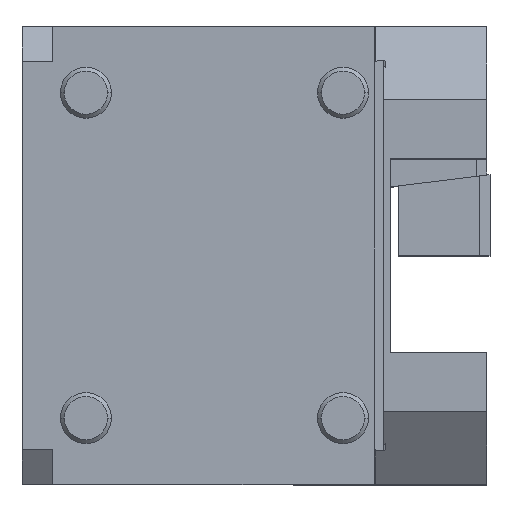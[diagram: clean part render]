
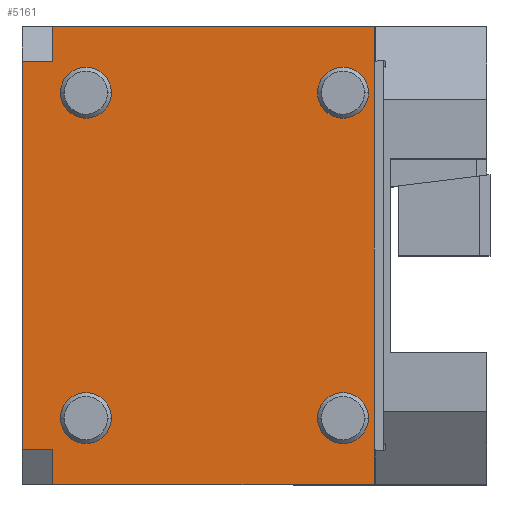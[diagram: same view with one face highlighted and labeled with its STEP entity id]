
A CAD part, top view. The second image highlights one B-rep face of the part: STEP entity #5161.
In plain terms, the highlighted planar face has unit normal (0, 0, 1).
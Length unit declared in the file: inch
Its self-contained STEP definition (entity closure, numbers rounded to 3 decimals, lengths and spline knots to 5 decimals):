
#106 = DIRECTION ( 'NONE',  ( 0., 1., 0. ) ) ;
#127 = VECTOR ( 'NONE', #919, 39.37008 ) ;
#233 = CARTESIAN_POINT ( 'NONE',  ( -0.51181, -1.25984, 0. ) ) ;
#304 = ORIENTED_EDGE ( 'NONE', *, *, #2963, .T. ) ;
#384 = EDGE_CURVE ( 'NONE', #2802, #5723, #5767, .T. ) ;
#440 = EDGE_CURVE ( 'NONE', #1032, #5996, #2401, .T. ) ;
#495 = EDGE_CURVE ( 'NONE', #2187, #2475, #2199, .T. ) ;
#500 = CARTESIAN_POINT ( 'NONE',  ( -2.30512, 1.25984, 0. ) ) ;
#541 = ORIENTED_EDGE ( 'NONE', *, *, #4062, .F. ) ;
#559 = AXIS2_PLACEMENT_3D ( 'NONE', #4185, #1819, #1801 ) ;
#723 = CARTESIAN_POINT ( 'NONE',  ( -2.56378, 1.77165, 0. ) ) ;
#740 = ORIENTED_EDGE ( 'NONE', *, *, #4851, .T. ) ;
#912 = DIRECTION ( 'NONE',  ( 0., 0., -1. ) ) ;
#919 = DIRECTION ( 'NONE',  ( 0., 1., 0. ) ) ;
#1011 = AXIS2_PLACEMENT_3D ( 'NONE', #1719, #2225, #3151 ) ;
#1032 = VERTEX_POINT ( 'NONE', #3878 ) ;
#1160 = VERTEX_POINT ( 'NONE', #1988 ) ;
#1177 = VECTOR ( 'NONE', #1369, 39.37008 ) ;
#1182 = AXIS2_PLACEMENT_3D ( 'NONE', #1457, #1477, #5173 ) ;
#1229 = EDGE_LOOP ( 'NONE', ( #1499, #4144 ) ) ;
#1260 = VERTEX_POINT ( 'NONE', #1637 ) ;
#1264 = AXIS2_PLACEMENT_3D ( 'NONE', #3846, #4253, #106 ) ;
#1281 = CARTESIAN_POINT ( 'NONE',  ( -0.07203, -1.50458, 0. ) ) ;
#1293 = CARTESIAN_POINT ( 'NONE',  ( -2.10827, 1.25984, 0. ) ) ;
#1338 = EDGE_CURVE ( 'NONE', #1558, #5433, #1340, .T. ) ;
#1340 = CIRCLE ( 'NONE', #4169, 0.19685 ) ;
#1369 = DIRECTION ( 'NONE',  ( 1., 0., 0. ) ) ;
#1383 = ORIENTED_EDGE ( 'NONE', *, *, #495, .F. ) ;
#1405 = CARTESIAN_POINT ( 'NONE',  ( -2.56378, -1.77165, 0. ) ) ;
#1457 = CARTESIAN_POINT ( 'NONE',  ( -0.31496, 1.25984, 0. ) ) ;
#1476 = CARTESIAN_POINT ( 'NONE',  ( -2.56378, -1.50458, 0. ) ) ;
#1477 = DIRECTION ( 'NONE',  ( 0., 0., 1. ) ) ;
#1499 = ORIENTED_EDGE ( 'NONE', *, *, #2731, .F. ) ;
#1519 = DIRECTION ( 'NONE',  ( 0., 0., -1. ) ) ;
#1528 = CARTESIAN_POINT ( 'NONE',  ( -2.10827, -1.25984, 0. ) ) ;
#1558 = VERTEX_POINT ( 'NONE', #1528 ) ;
#1623 = AXIS2_PLACEMENT_3D ( 'NONE', #4029, #1657, #3048 ) ;
#1637 = CARTESIAN_POINT ( 'NONE',  ( -0.11811, -1.25984, 0. ) ) ;
#1657 = DIRECTION ( 'NONE',  ( 0., 0., 1. ) ) ;
#1719 = CARTESIAN_POINT ( 'NONE',  ( -0.31496, -1.25984, 0. ) ) ;
#1728 = VERTEX_POINT ( 'NONE', #723 ) ;
#1738 = CIRCLE ( 'NONE', #1623, 0.19685 ) ;
#1801 = DIRECTION ( 'NONE',  ( 0., 1., 0. ) ) ;
#1819 = DIRECTION ( 'NONE',  ( 0., 0., 1. ) ) ;
#1821 = DIRECTION ( 'NONE',  ( 0., 0., -1. ) ) ;
#1862 = EDGE_LOOP ( 'NONE', ( #3715, #2814 ) ) ;
#1869 = LINE ( 'NONE', #1281, #1177 ) ;
#1871 = CARTESIAN_POINT ( 'NONE',  ( -2.8, 1.50458, 0. ) ) ;
#1988 = CARTESIAN_POINT ( 'NONE',  ( -2.56378, -1.77165, 0. ) ) ;
#2187 = VERTEX_POINT ( 'NONE', #4937 ) ;
#2199 = CIRCLE ( 'NONE', #1182, 0.19685 ) ;
#2208 = VERTEX_POINT ( 'NONE', #3118 ) ;
#2225 = DIRECTION ( 'NONE',  ( 0., 0., 1. ) ) ;
#2227 = EDGE_CURVE ( 'NONE', #5723, #1728, #5384, .T. ) ;
#2246 = AXIS2_PLACEMENT_3D ( 'NONE', #4321, #1519, #4785 ) ;
#2263 = CARTESIAN_POINT ( 'NONE',  ( -2.30512, -1.25984, 0. ) ) ;
#2285 = EDGE_CURVE ( 'NONE', #4585, #3184, #3052, .T. ) ;
#2305 = DIRECTION ( 'NONE',  ( 0., 1., 0. ) ) ;
#2351 = EDGE_CURVE ( 'NONE', #5679, #1260, #3639, .T. ) ;
#2383 = AXIS2_PLACEMENT_3D ( 'NONE', #500, #4220, #2305 ) ;
#2401 = CIRCLE ( 'NONE', #1264, 0.19685 ) ;
#2475 = VERTEX_POINT ( 'NONE', #6033 ) ;
#2493 = LINE ( 'NONE', #3942, #4068 ) ;
#2626 = EDGE_LOOP ( 'NONE', ( #2878, #5644, #3070, #541, #5907, #3160, #740, #5143 ) ) ;
#2654 = EDGE_CURVE ( 'NONE', #2475, #2187, #1738, .T. ) ;
#2659 = LINE ( 'NONE', #3628, #4702 ) ;
#2711 = AXIS2_PLACEMENT_3D ( 'NONE', #6034, #1821, #4200 ) ;
#2716 = FACE_BOUND ( 'NONE', #1229, .T. ) ;
#2731 = EDGE_CURVE ( 'NONE', #1260, #5679, #5221, .T. ) ;
#2792 = DIRECTION ( 'NONE',  ( 0., 1., 0. ) ) ;
#2802 = VERTEX_POINT ( 'NONE', #4951 ) ;
#2806 = EDGE_CURVE ( 'NONE', #4585, #3207, #1869, .T. ) ;
#2814 = ORIENTED_EDGE ( 'NONE', *, *, #440, .F. ) ;
#2878 = ORIENTED_EDGE ( 'NONE', *, *, #2285, .F. ) ;
#2902 = DIRECTION ( 'NONE',  ( 0., -1., 0. ) ) ;
#2963 = EDGE_CURVE ( 'NONE', #5433, #1558, #5153, .T. ) ;
#3048 = DIRECTION ( 'NONE',  ( 0., 1., 0. ) ) ;
#3052 = LINE ( 'NONE', #4168, #127 ) ;
#3070 = ORIENTED_EDGE ( 'NONE', *, *, #3175, .F. ) ;
#3118 = CARTESIAN_POINT ( 'NONE',  ( -2.56378, 1.50458, 0. ) ) ;
#3151 = DIRECTION ( 'NONE',  ( 0., 1., 0. ) ) ;
#3160 = ORIENTED_EDGE ( 'NONE', *, *, #2227, .T. ) ;
#3175 = EDGE_CURVE ( 'NONE', #1160, #3207, #3771, .T. ) ;
#3184 = VERTEX_POINT ( 'NONE', #1871 ) ;
#3207 = VERTEX_POINT ( 'NONE', #1476 ) ;
#3420 = CARTESIAN_POINT ( 'NONE',  ( -0.07203, 1.77165, 0. ) ) ;
#3432 = VECTOR ( 'NONE', #2792, 39.37008 ) ;
#3447 = FACE_OUTER_BOUND ( 'NONE', #2626, .T. ) ;
#3472 = CARTESIAN_POINT ( 'NONE',  ( -2.8, -1.50458, 0. ) ) ;
#3612 = FACE_BOUND ( 'NONE', #1862, .T. ) ;
#3628 = CARTESIAN_POINT ( 'NONE',  ( -0.07203, -1.77165, 0. ) ) ;
#3639 = CIRCLE ( 'NONE', #559, 0.19685 ) ;
#3715 = ORIENTED_EDGE ( 'NONE', *, *, #5150, .F. ) ;
#3735 = DIRECTION ( 'NONE',  ( 0., 1., 0. ) ) ;
#3750 = FACE_BOUND ( 'NONE', #4895, .T. ) ;
#3771 = LINE ( 'NONE', #1405, #5734 ) ;
#3846 = CARTESIAN_POINT ( 'NONE',  ( -2.30512, 1.25984, 0. ) ) ;
#3878 = CARTESIAN_POINT ( 'NONE',  ( -2.50197, 1.25984, 0. ) ) ;
#3942 = CARTESIAN_POINT ( 'NONE',  ( -0.07203, 1.50458, 0. ) ) ;
#3983 = FACE_BOUND ( 'NONE', #5895, .T. ) ;
#4029 = CARTESIAN_POINT ( 'NONE',  ( -0.31496, 1.25984, 0. ) ) ;
#4062 = EDGE_CURVE ( 'NONE', #2802, #1160, #2659, .T. ) ;
#4066 = LINE ( 'NONE', #4810, #6001 ) ;
#4068 = VECTOR ( 'NONE', #4381, 39.37008 ) ;
#4144 = ORIENTED_EDGE ( 'NONE', *, *, #2351, .F. ) ;
#4168 = CARTESIAN_POINT ( 'NONE',  ( -2.8, -1.77165, 0. ) ) ;
#4169 = AXIS2_PLACEMENT_3D ( 'NONE', #2263, #912, #3735 ) ;
#4185 = CARTESIAN_POINT ( 'NONE',  ( -0.31496, -1.25984, 0. ) ) ;
#4200 = DIRECTION ( 'NONE',  ( 1., 0., 0. ) ) ;
#4220 = DIRECTION ( 'NONE',  ( 0., 0., 1. ) ) ;
#4253 = DIRECTION ( 'NONE',  ( 0., 0., 1. ) ) ;
#4321 = CARTESIAN_POINT ( 'NONE',  ( -2.30512, -1.25984, 0. ) ) ;
#4381 = DIRECTION ( 'NONE',  ( -1., 0., 0. ) ) ;
#4480 = DIRECTION ( 'NONE',  ( -1., 0., 0. ) ) ;
#4544 = CARTESIAN_POINT ( 'NONE',  ( -0.07203, 1.77165, 0. ) ) ;
#4585 = VERTEX_POINT ( 'NONE', #3472 ) ;
#4675 = CARTESIAN_POINT ( 'NONE',  ( -0.07203, -1.77165, 0. ) ) ;
#4690 = CIRCLE ( 'NONE', #2383, 0.19685 ) ;
#4702 = VECTOR ( 'NONE', #4956, 39.37008 ) ;
#4785 = DIRECTION ( 'NONE',  ( 0., 1., 0. ) ) ;
#4810 = CARTESIAN_POINT ( 'NONE',  ( -2.56378, -1.77165, 0. ) ) ;
#4851 = EDGE_CURVE ( 'NONE', #1728, #2208, #4066, .T. ) ;
#4870 = ORIENTED_EDGE ( 'NONE', *, *, #1338, .T. ) ;
#4895 = EDGE_LOOP ( 'NONE', ( #304, #4870 ) ) ;
#4937 = CARTESIAN_POINT ( 'NONE',  ( -0.11811, 1.25984, 0. ) ) ;
#4951 = CARTESIAN_POINT ( 'NONE',  ( -0.07203, -1.77165, 0. ) ) ;
#4956 = DIRECTION ( 'NONE',  ( -1., 0., 0. ) ) ;
#5063 = ORIENTED_EDGE ( 'NONE', *, *, #2654, .F. ) ;
#5104 = DIRECTION ( 'NONE',  ( 0., 1., 0. ) ) ;
#5143 = ORIENTED_EDGE ( 'NONE', *, *, #5381, .T. ) ;
#5150 = EDGE_CURVE ( 'NONE', #5996, #1032, #4690, .T. ) ;
#5153 = CIRCLE ( 'NONE', #2246, 0.19685 ) ;
#5161 = ADVANCED_FACE ( 'NONE', ( #3750, #3983, #2716, #3612, #3447 ), #5529, .F. ) ;
#5173 = DIRECTION ( 'NONE',  ( 0., 1., 0. ) ) ;
#5221 = CIRCLE ( 'NONE', #1011, 0.19685 ) ;
#5381 = EDGE_CURVE ( 'NONE', #2208, #3184, #2493, .T. ) ;
#5384 = LINE ( 'NONE', #4544, #5739 ) ;
#5433 = VERTEX_POINT ( 'NONE', #5798 ) ;
#5529 = PLANE ( 'NONE',  #2711 ) ;
#5644 = ORIENTED_EDGE ( 'NONE', *, *, #2806, .T. ) ;
#5679 = VERTEX_POINT ( 'NONE', #233 ) ;
#5723 = VERTEX_POINT ( 'NONE', #3420 ) ;
#5734 = VECTOR ( 'NONE', #5104, 39.37008 ) ;
#5739 = VECTOR ( 'NONE', #4480, 39.37008 ) ;
#5767 = LINE ( 'NONE', #4675, #3432 ) ;
#5798 = CARTESIAN_POINT ( 'NONE',  ( -2.50197, -1.25984, 0. ) ) ;
#5895 = EDGE_LOOP ( 'NONE', ( #1383, #5063 ) ) ;
#5907 = ORIENTED_EDGE ( 'NONE', *, *, #384, .T. ) ;
#5996 = VERTEX_POINT ( 'NONE', #1293 ) ;
#6001 = VECTOR ( 'NONE', #2902, 39.37008 ) ;
#6033 = CARTESIAN_POINT ( 'NONE',  ( -0.51181, 1.25984, 0. ) ) ;
#6034 = CARTESIAN_POINT ( 'NONE',  ( -0.07203, -1.77165, 0. ) ) ;
